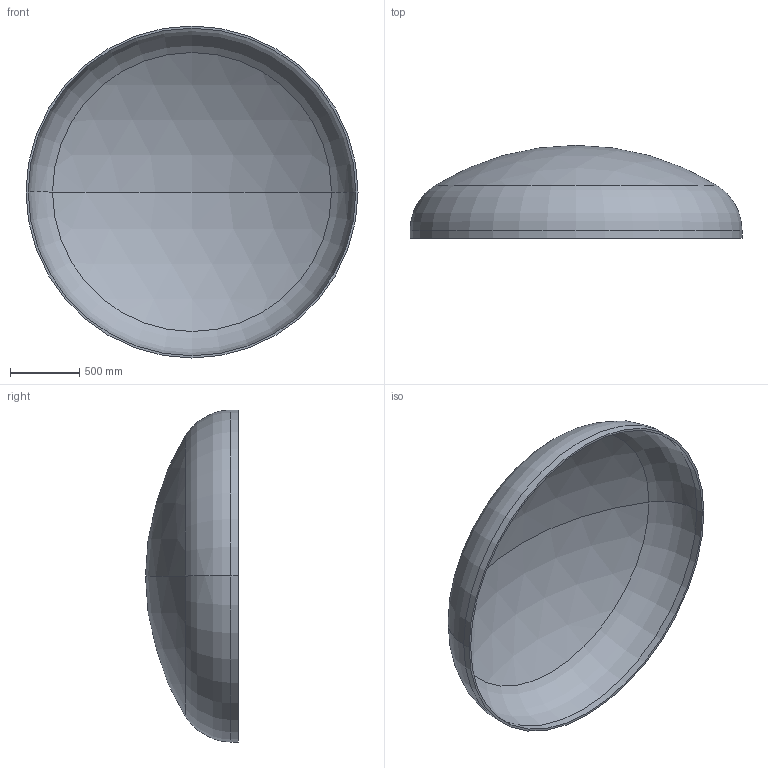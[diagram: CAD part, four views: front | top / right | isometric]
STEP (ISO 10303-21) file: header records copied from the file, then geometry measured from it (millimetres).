
FILE_DESCRIPTION (( 'STEP AP203' ), '1' );
FILE_NAME ('DIN 28013 Korbbogenform_-_Boden DIN 28013 - 2400 x 55 - I - s=16.step', '2016-07-01T15:07:29', ( '' ), ( '' ), 'SwSTEP 2.0', 'SolidWorks 2013', '' );
FILE_SCHEMA (( 'CONFIG_CONTROL_DESIGN' ));
Length unit declared in the file: millimetre
Products named in the file (1): DIN 28013 Korbbogenform_-_Boden DIN 28013 - 2400 x 55 - I - s=16
Bounding box: 2400 x 671.95 x 2400 mm (x, y, z)
Volume: 105982048.6 mm3; surface area: 13368120.1 mm2
Topology: 1 solids, 1 shells, 13 faces, 24 edges, 14 vertices
Faces by surface type: torus 4, cylinder 4, sphere 4, plane 1
Entity records: 407 total; most frequent: DIRECTION 72, CARTESIAN_POINT 52, ORIENTED_EDGE 48, AXIS2_PLACEMENT_3D 34, EDGE_CURVE 24, CIRCLE 20, VERTEX_POINT 14, EDGE_LOOP 14
